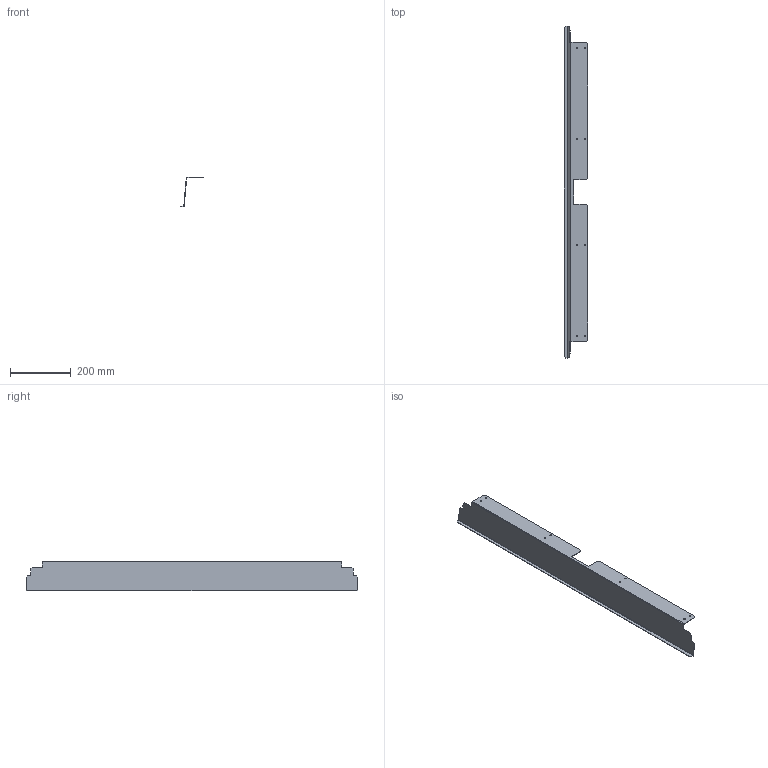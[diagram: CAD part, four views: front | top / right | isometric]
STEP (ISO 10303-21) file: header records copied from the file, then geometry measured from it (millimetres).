
FILE_DESCRIPTION (( 'STEP AP203' ), '1' );
FILE_NAME ('EUP0090.STEP', '2018-07-06T15:08:29', ( '' ), ( '' ), 'SwSTEP 2.0', 'SolidWorks 2017', '' );
FILE_SCHEMA (( 'CONFIG_CONTROL_DESIGN' ));
Length unit declared in the file: millimetre
Products named in the file (1): EUP0090
Bounding box: 78.45 x 1095 x 97.88 mm (x, y, z)
Volume: 227362 mm3; surface area: 340476.5 mm2
Topology: 1 solids, 1 shells, 60 faces, 158 edges, 100 vertices
Faces by surface type: plane 40, cylinder 20
Entity records: 1943 total; most frequent: DIRECTION 320, CARTESIAN_POINT 319, ORIENTED_EDGE 316, EDGE_CURVE 158, LINE 118, VECTOR 118, AXIS2_PLACEMENT_3D 101, VERTEX_POINT 100
